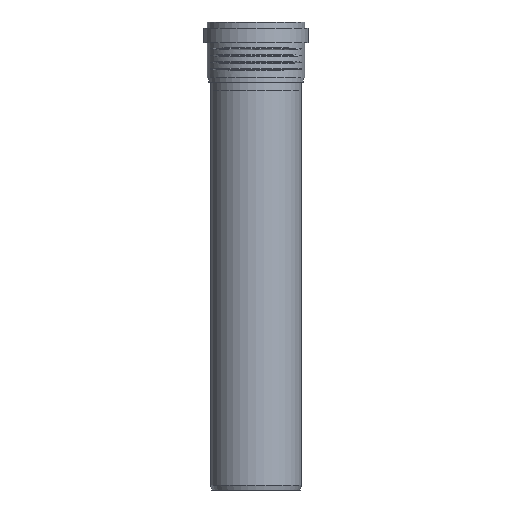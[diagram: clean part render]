
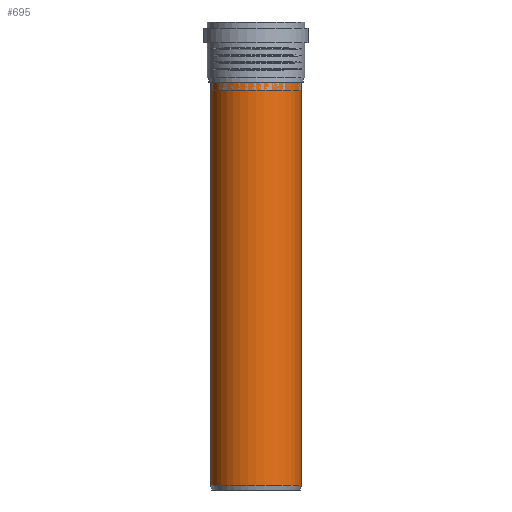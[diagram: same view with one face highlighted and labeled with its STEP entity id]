
A CAD part, front view. The second image highlights one B-rep face of the part: STEP entity #695.
In plain terms, the highlighted cylindrical face has radius 55.1 mm (diameter 110.2 mm), a full revolution.
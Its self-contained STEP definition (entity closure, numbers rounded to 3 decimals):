
#94=CYLINDRICAL_SURFACE($,#750,55.1);
#118=FACE_BOUND($,#198,.T.);
#153=FACE_OUTER_BOUND($,#197,.T.);
#197=EDGE_LOOP($,(#472));
#198=EDGE_LOOP($,(#473));
#272=CIRCLE($,#747,55.1);
#274=CIRCLE($,#751,55.1);
#311=VERTEX_POINT($,#1021);
#313=VERTEX_POINT($,#1027);
#382=EDGE_CURVE($,#311,#311,#272,.T.);
#384=EDGE_CURVE($,#313,#313,#274,.T.);
#472=ORIENTED_EDGE($,*,*,#384,.T.);
#473=ORIENTED_EDGE($,*,*,#382,.F.);
#695=ADVANCED_FACE($,(#153,#118),#94,.T.);
#747=AXIS2_PLACEMENT_3D($,#1022,#841,#842);
#750=AXIS2_PLACEMENT_3D($,#1026,#847,#848);
#751=AXIS2_PLACEMENT_3D($,#1028,#849,#850);
#841=DIRECTION('center_axis',(0.,0.,-1.));
#842=DIRECTION('ref_axis',(-1.,0.,0.));
#847=DIRECTION('center_axis',(0.,0.,1.));
#848=DIRECTION('ref_axis',(-1.,0.,0.));
#849=DIRECTION('center_axis',(0.,0.,-1.));
#850=DIRECTION('ref_axis',(-1.,0.,0.));
#1021=CARTESIAN_POINT('',(55.1,0.,-242.));
#1022=CARTESIAN_POINT('Origin',(0.,0.,-242.));
#1026=CARTESIAN_POINT('Origin',(0.,0.,0.));
#1027=CARTESIAN_POINT('',(55.1,0.,247.5));
#1028=CARTESIAN_POINT('Origin',(0.,0.,247.5));
